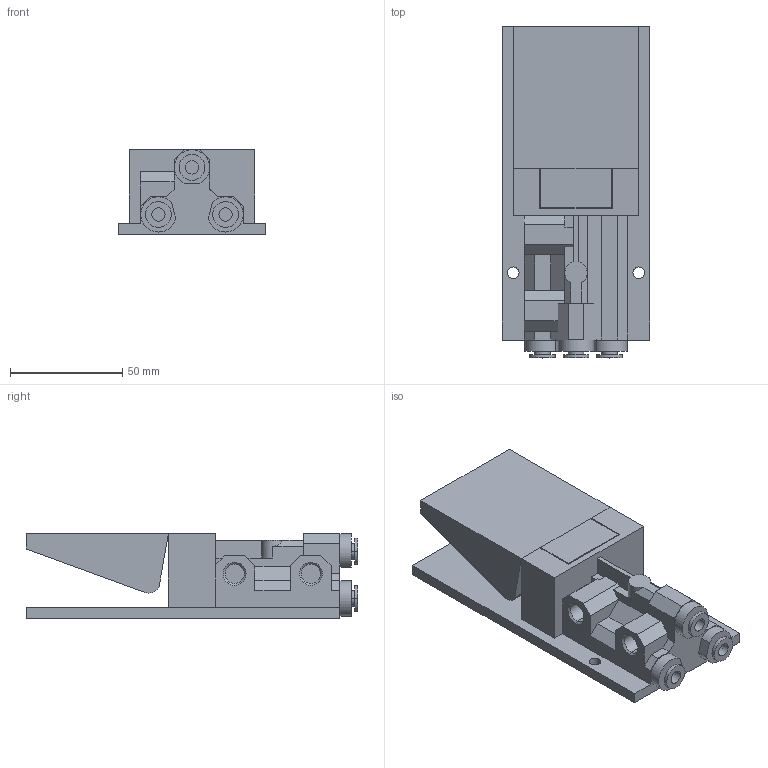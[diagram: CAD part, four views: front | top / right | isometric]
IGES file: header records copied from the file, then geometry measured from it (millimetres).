
Global section: file name: No Iges File Name specified; native system: AutoDesk Inventor R11.0; preprocessor: AutoDesk Inventor Iges Exporter R11.0; author: No Author specified; organization: No Organization specified; date: 20061219.114349; units: millimetre
Bounding box: 66 x 148 x 38 mm (x, y, z)
Volume: 180921.4 mm3; surface area: 45376 mm2
Topology: 2 solids, 2 shells, 124 faces, 314 edges, 203 vertices
Faces by surface type: plane 81, bspline 23, cylinder 18, revolution 2
